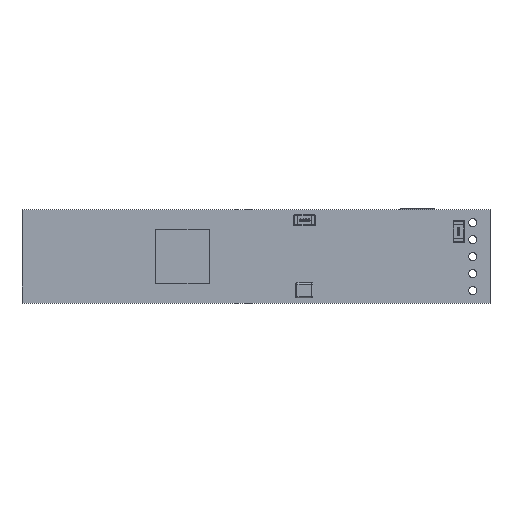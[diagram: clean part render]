
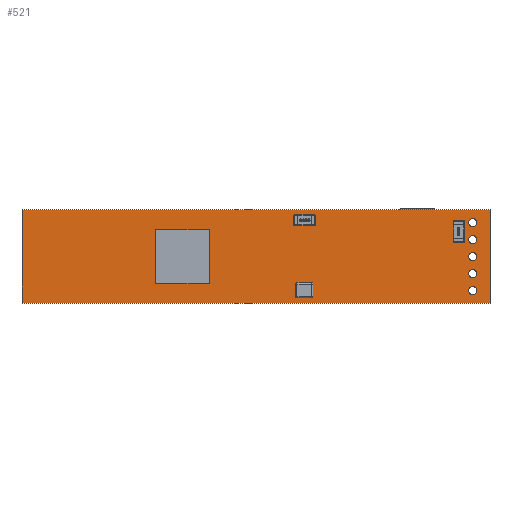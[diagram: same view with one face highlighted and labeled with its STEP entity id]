
A CAD part, top view. The second image highlights one B-rep face of the part: STEP entity #521.
In plain terms, the highlighted planar face has unit normal (0, 0, 1).
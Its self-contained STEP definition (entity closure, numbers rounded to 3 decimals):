
#212 = VERTEX_POINT('',#213);
#213 = CARTESIAN_POINT('',(-17.13,-1.277,1.123));
#219 = EDGE_CURVE('',#212,#220,#222,.T.);
#220 = VERTEX_POINT('',#221);
#221 = CARTESIAN_POINT('',(17.87,-1.277,1.123));
#222 = LINE('',#223,#224);
#223 = CARTESIAN_POINT('',(-17.13,-1.277,1.123));
#224 = VECTOR('',#225,1.);
#225 = DIRECTION('',(1.,0.,0.));
#250 = EDGE_CURVE('',#220,#251,#253,.T.);
#251 = VERTEX_POINT('',#252);
#252 = CARTESIAN_POINT('',(17.87,5.723,1.123));
#253 = LINE('',#254,#255);
#254 = CARTESIAN_POINT('',(17.87,-1.277,1.123));
#255 = VECTOR('',#256,1.);
#256 = DIRECTION('',(0.,1.,0.));
#281 = EDGE_CURVE('',#251,#282,#284,.T.);
#282 = VERTEX_POINT('',#283);
#283 = CARTESIAN_POINT('',(-17.13,5.723,1.123));
#284 = LINE('',#285,#286);
#285 = CARTESIAN_POINT('',(17.87,5.723,1.123));
#286 = VECTOR('',#287,1.);
#287 = DIRECTION('',(-1.,0.,0.));
#312 = EDGE_CURVE('',#282,#212,#313,.T.);
#313 = LINE('',#314,#315);
#314 = CARTESIAN_POINT('',(-17.13,5.723,1.123));
#315 = VECTOR('',#316,1.);
#316 = DIRECTION('',(0.,-1.,0.));
#336 = VERTEX_POINT('',#337);
#337 = CARTESIAN_POINT('',(16.88,-0.337,1.123));
#343 = EDGE_CURVE('',#336,#336,#344,.T.);
#344 = CIRCLE('',#345,0.3);
#345 = AXIS2_PLACEMENT_3D('',#346,#347,#348);
#346 = CARTESIAN_POINT('',(16.58,-0.337,1.123));
#347 = DIRECTION('',(0.,0.,1.));
#348 = DIRECTION('',(1.,0.,0.));
#369 = VERTEX_POINT('',#370);
#370 = CARTESIAN_POINT('',(16.88,4.743,1.123));
#376 = EDGE_CURVE('',#369,#369,#377,.T.);
#377 = CIRCLE('',#378,0.3);
#378 = AXIS2_PLACEMENT_3D('',#379,#380,#381);
#379 = CARTESIAN_POINT('',(16.58,4.743,1.123));
#380 = DIRECTION('',(0.,0.,1.));
#381 = DIRECTION('',(1.,0.,0.));
#402 = VERTEX_POINT('',#403);
#403 = CARTESIAN_POINT('',(16.88,0.933,1.123));
#409 = EDGE_CURVE('',#402,#402,#410,.T.);
#410 = CIRCLE('',#411,0.3);
#411 = AXIS2_PLACEMENT_3D('',#412,#413,#414);
#412 = CARTESIAN_POINT('',(16.58,0.933,1.123));
#413 = DIRECTION('',(0.,0.,1.));
#414 = DIRECTION('',(1.,0.,0.));
#435 = VERTEX_POINT('',#436);
#436 = CARTESIAN_POINT('',(16.88,3.473,1.123));
#442 = EDGE_CURVE('',#435,#435,#443,.T.);
#443 = CIRCLE('',#444,0.3);
#444 = AXIS2_PLACEMENT_3D('',#445,#446,#447);
#445 = CARTESIAN_POINT('',(16.58,3.473,1.123));
#446 = DIRECTION('',(0.,0.,1.));
#447 = DIRECTION('',(1.,0.,0.));
#468 = VERTEX_POINT('',#469);
#469 = CARTESIAN_POINT('',(16.88,2.203,1.123));
#475 = EDGE_CURVE('',#468,#468,#476,.T.);
#476 = CIRCLE('',#477,0.3);
#477 = AXIS2_PLACEMENT_3D('',#478,#479,#480);
#478 = CARTESIAN_POINT('',(16.58,2.203,1.123));
#479 = DIRECTION('',(0.,0.,1.));
#480 = DIRECTION('',(1.,0.,0.));
#521 = ADVANCED_FACE('',(#522,#528,#531,#534,#537,#540),#543,.F.);
#522 = FACE_BOUND('',#523,.T.);
#523 = EDGE_LOOP('',(#524,#525,#526,#527));
#524 = ORIENTED_EDGE('',*,*,#219,.T.);
#525 = ORIENTED_EDGE('',*,*,#250,.T.);
#526 = ORIENTED_EDGE('',*,*,#281,.T.);
#527 = ORIENTED_EDGE('',*,*,#312,.T.);
#528 = FACE_BOUND('',#529,.F.);
#529 = EDGE_LOOP('',(#530));
#530 = ORIENTED_EDGE('',*,*,#343,.T.);
#531 = FACE_BOUND('',#532,.F.);
#532 = EDGE_LOOP('',(#533));
#533 = ORIENTED_EDGE('',*,*,#376,.T.);
#534 = FACE_BOUND('',#535,.F.);
#535 = EDGE_LOOP('',(#536));
#536 = ORIENTED_EDGE('',*,*,#409,.T.);
#537 = FACE_BOUND('',#538,.F.);
#538 = EDGE_LOOP('',(#539));
#539 = ORIENTED_EDGE('',*,*,#442,.T.);
#540 = FACE_BOUND('',#541,.F.);
#541 = EDGE_LOOP('',(#542));
#542 = ORIENTED_EDGE('',*,*,#475,.T.);
#543 = PLANE('',#544);
#544 = AXIS2_PLACEMENT_3D('',#545,#546,#547);
#545 = CARTESIAN_POINT('',(-17.13,-1.277,1.123));
#546 = DIRECTION('',(0.,0.,-1.));
#547 = DIRECTION('',(-1.,0.,0.));
